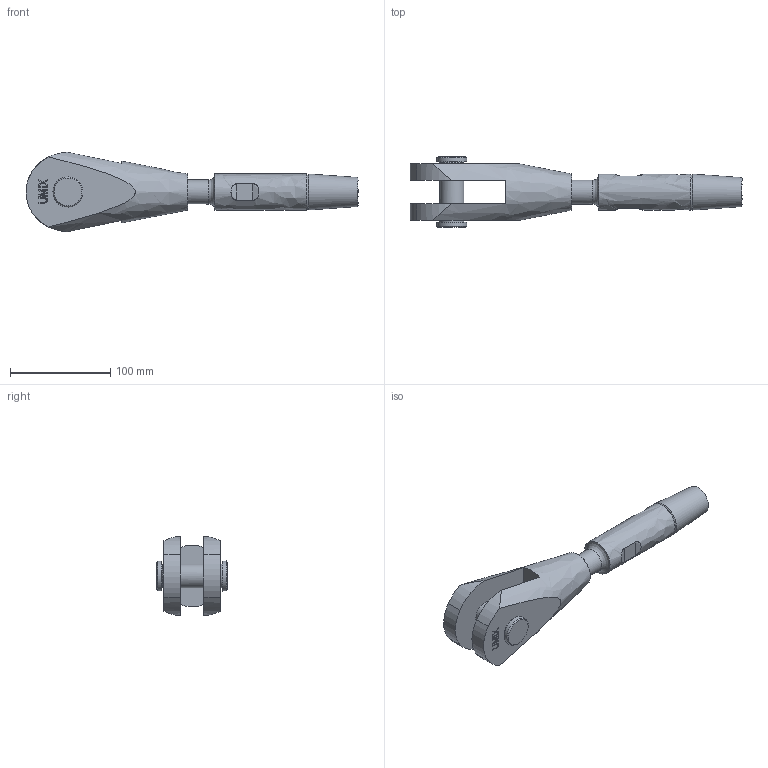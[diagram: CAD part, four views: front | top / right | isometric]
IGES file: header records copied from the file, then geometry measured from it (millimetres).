
Global section: file name: 520-024-GAK-ADA; native system: Autodesk Inventor 2016; preprocessor: unknown; author: Administrator; date: 20200703.130615; units: centimetre
Bounding box: 331.98 x 70.72 x 79.24 mm (x, y, z)
Volume: 459861.6 mm3; surface area: 73711.5 mm2
Topology: 2 solids, 3 shells, 197 faces, 518 edges, 348 vertices
Faces by surface type: bspline 197
